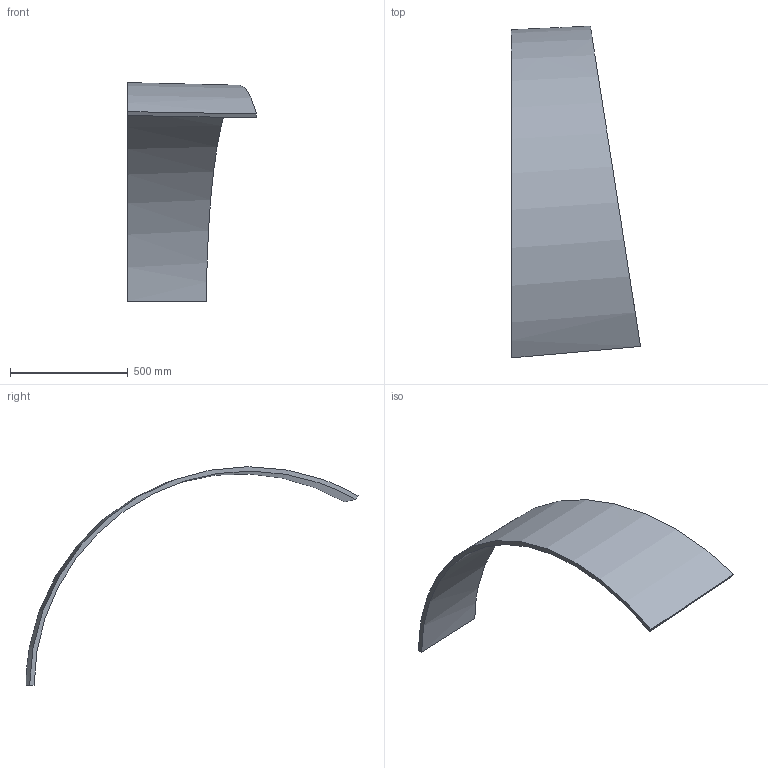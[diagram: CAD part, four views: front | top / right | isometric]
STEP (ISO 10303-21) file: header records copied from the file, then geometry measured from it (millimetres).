
FILE_DESCRIPTION (( 'STEP AP214' ), '1' );
FILE_NAME ('Section 13-C.STEP', '2025-01-09T19:43:25', ( '' ), ( '' ), 'SwSTEP 2.0', 'SolidWorks 2024', '' );
FILE_SCHEMA (( 'AUTOMOTIVE_DESIGN' ));
Length unit declared in the file: inch
Products named in the file (1): Section 13-C
Bounding box: 549.03 x 1412.39 x 930.26 mm (x, y, z)
Volume: 15286014.5 mm3; surface area: 1694531.9 mm2
Topology: 1 solids, 1 shells, 6 faces, 12 edges, 8 vertices
Faces by surface type: bspline 6
Entity records: 315 total; most frequent: CARTESIAN_POINT 201, ORIENTED_EDGE 24, B_SPLINE_CURVE_WITH_KNOTS 12, EDGE_CURVE 12, VERTEX_POINT 8, FACE_OUTER_BOUND 6, ADVANCED_FACE 6, B_SPLINE_SURFACE_WITH_KNOTS 6
